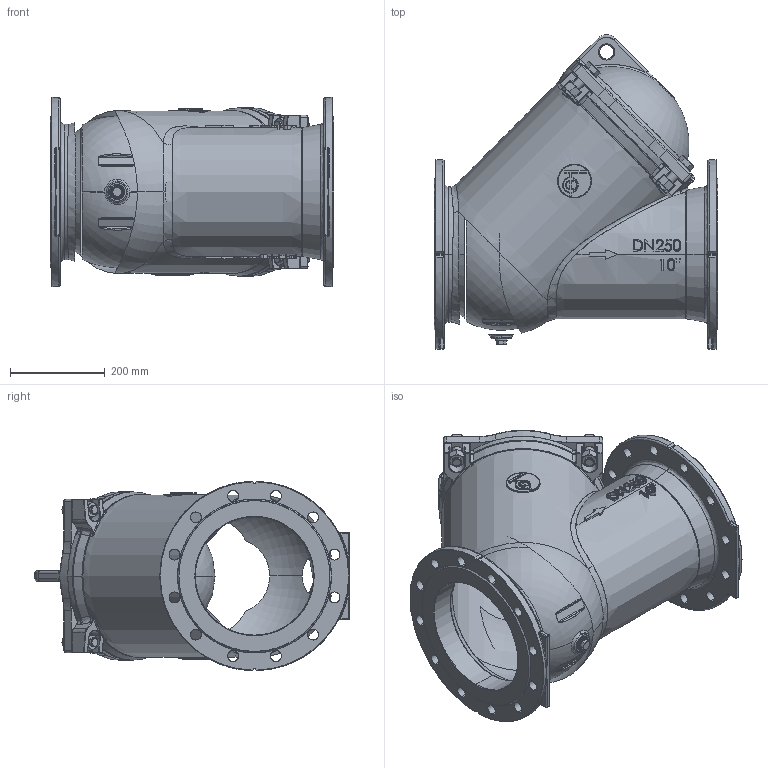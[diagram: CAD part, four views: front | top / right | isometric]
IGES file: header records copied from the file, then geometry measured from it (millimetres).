
Start section: SolidWorks IGES file using analytic representation for surfaces
Global section: file name: H:\BE BIBLIOTHEQUE 3D\BE SECTION 04 - CLAPETS_FILTRES\CBL - Clapet à boule\CBL4240\FSM\DIFFUSION INTERNET\DN 250\642000017-1.IGS; native system: SolidWorks 2017; preprocessor: SolidWorks 2017; author: l.refnou; date: 180226.142626; units: millimetre
Bounding box: 600 x 664.02 x 399.82 mm (x, y, z)
Surface area: 2203406.4 mm2 (no closed solid volume)
Topology: 0 solids, 0 shells, 1165 faces, 17715 edges, 17666 vertices
Faces by surface type: bspline 684, revolution 481
